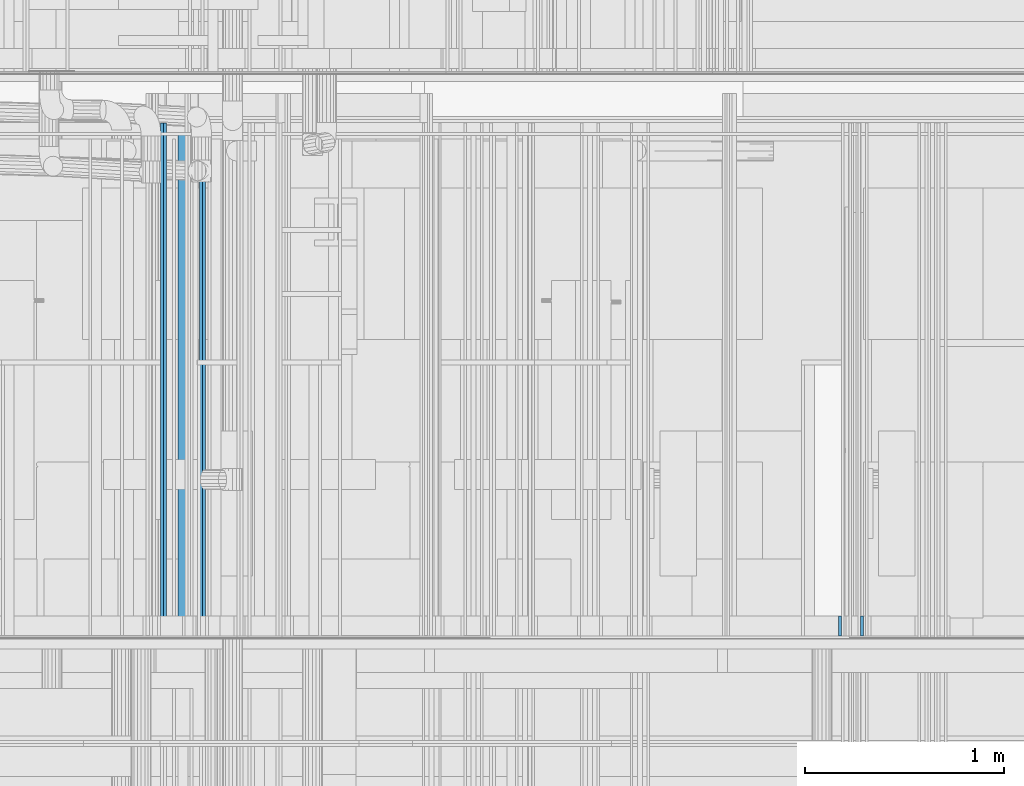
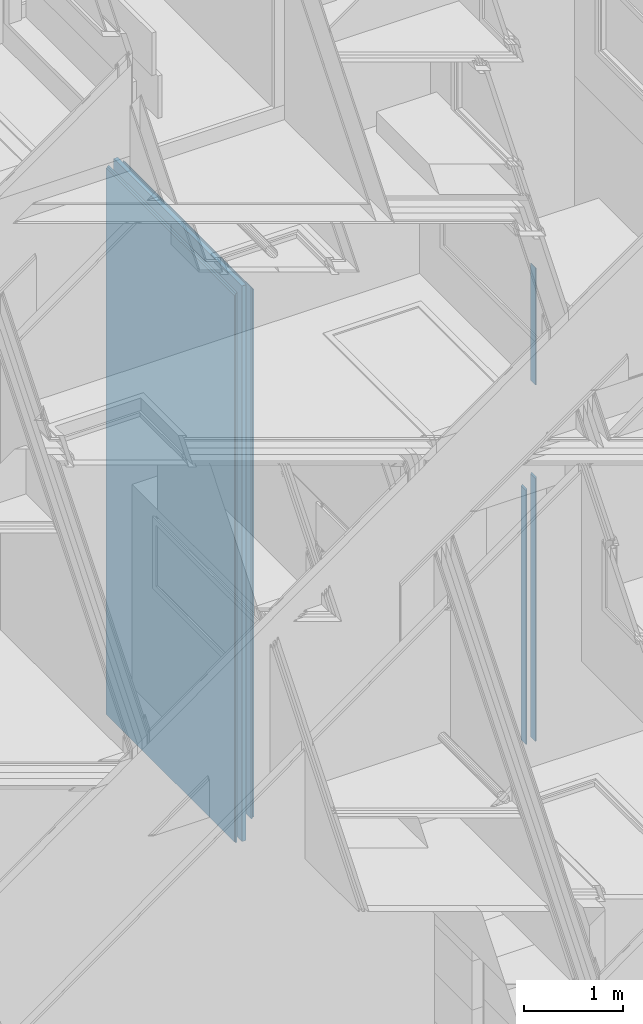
# One storey, part 118 of 583: 8 building element parts, 3 elements without a shape of their own.
"""IFC2X3 building model written with IfcOpenShell, lengths in metres."""

from ifc_helpers import new_model, entity, si_unit, converted_unit, derived_unit, money_unit, direction, frame, frame_2d, origin_with_axes, place, context, subcontext, project, spatial, polyline, rectangle, outline, extrude, material, type_object, element, aggregate, save


model = new_model("IFC2X3")

# Units and contexts
model_context = context("Model", 3, precision=1e-05, world=origin_with_axes(), true_north=direction((0.0, 1.0)))
body_context = subcontext(model_context, "Body", "Model", "MODEL_VIEW", scale=1.0)
ifc_project = project(units=[si_unit("LENGTHUNIT", "METRE"), si_unit("AREAUNIT", "SQUARE_METRE"), si_unit("VOLUMEUNIT", "CUBIC_METRE"), si_unit("ABSORBEDDOSEUNIT", "GRAY"), si_unit("AMOUNTOFSUBSTANCEUNIT", "MOLE"), si_unit("DOSEEQUIVALENTUNIT", "SIEVERT"), si_unit("ELECTRICCAPACITANCEUNIT", "FARAD"), si_unit("ELECTRICCHARGEUNIT", "COULOMB"), si_unit("ELECTRICCONDUCTANCEUNIT", "SIEMENS"), si_unit("ELECTRICCURRENTUNIT", "AMPERE"), si_unit("ELECTRICRESISTANCEUNIT", "OHM"), si_unit("ELECTRICVOLTAGEUNIT", "VOLT"), si_unit("ENERGYUNIT", "JOULE"), si_unit("FORCEUNIT", "NEWTON"), si_unit("FREQUENCYUNIT", "HERTZ"), si_unit("ILLUMINANCEUNIT", "LUX"), si_unit("INDUCTANCEUNIT", "HENRY"), si_unit("LUMINOUSFLUXUNIT", "LUMEN"), si_unit("LUMINOUSINTENSITYUNIT", "CANDELA"), si_unit("MAGNETICFLUXDENSITYUNIT", "TESLA"), si_unit("MAGNETICFLUXUNIT", "WEBER"), si_unit("MASSUNIT", "GRAM"), converted_unit("PLANEANGLEUNIT", "degree", entity("IfcReal", 0.0174532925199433), si_unit("PLANEANGLEUNIT", "RADIAN"), dimensions=[0, 0, 0, 0, 0, 0, 0]), si_unit("POWERUNIT", "WATT"), si_unit("PRESSUREUNIT", "PASCAL"), si_unit("RADIOACTIVITYUNIT", "BECQUEREL"), si_unit("SOLIDANGLEUNIT", "STERADIAN"), si_unit("THERMODYNAMICTEMPERATUREUNIT", "KELVIN"), si_unit("TIMEUNIT", "SECOND"), derived_unit("ACCELERATIONUNIT", [(si_unit("LENGTHUNIT", "METRE"), 1), (si_unit("TIMEUNIT", "SECOND"), -2)]), derived_unit("ANGULARVELOCITYUNIT", [(converted_unit("PLANEANGLEUNIT", "degree", entity("IfcReal", 0.0174532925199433), si_unit("PLANEANGLEUNIT", "RADIAN"), dimensions=[0, 0, 0, 0, 0, 0, 0]), 1), (si_unit("TIMEUNIT", "SECOND"), -1)]), derived_unit("CURVATUREUNIT", [(converted_unit("PLANEANGLEUNIT", "degree", entity("IfcReal", 0.0174532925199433), si_unit("PLANEANGLEUNIT", "RADIAN"), dimensions=[0, 0, 0, 0, 0, 0, 0]), 1), (si_unit("LENGTHUNIT", "METRE"), -1)]), derived_unit("DYNAMICVISCOSITYUNIT", [(si_unit("PRESSUREUNIT", "PASCAL"), 1), (si_unit("TIMEUNIT", "SECOND"), 1)]), derived_unit("HEATFLUXDENSITYUNIT", [(si_unit("POWERUNIT", "WATT"), 1), (si_unit("LENGTHUNIT", "METRE"), -2)]), derived_unit("HEATINGVALUEUNIT", [(si_unit("ENERGYUNIT", "JOULE"), 1), (si_unit("MASSUNIT", "GRAM"), -1)]), derived_unit("INTEGERCOUNTRATEUNIT", [(si_unit("TIMEUNIT", "SECOND"), -1)]), derived_unit("IONCONCENTRATIONUNIT", [(si_unit("MASSUNIT", "GRAM"), 1), (si_unit("VOLUMEUNIT", "CUBIC_METRE"), -1)]), derived_unit("ISOTHERMALMOISTURECAPACITYUNIT", [(si_unit("VOLUMEUNIT", "CUBIC_METRE"), 1), (si_unit("MASSUNIT", "GRAM"), -1)]), derived_unit("KINEMATICVISCOSITYUNIT", [(si_unit("AREAUNIT", "SQUARE_METRE"), 1), (si_unit("TIMEUNIT", "SECOND"), -1)]), derived_unit("LINEARFORCEUNIT", [(si_unit("FORCEUNIT", "NEWTON"), 1), (si_unit("LENGTHUNIT", "METRE"), -1)]), derived_unit("LINEARMOMENTUNIT", [(si_unit("FORCEUNIT", "NEWTON"), 1), (si_unit("LENGTHUNIT", "METRE"), -1)]), derived_unit("LINEARSTIFFNESSUNIT", [(si_unit("FORCEUNIT", "NEWTON"), 1), (si_unit("LENGTHUNIT", "METRE"), -1)]), derived_unit("LINEARVELOCITYUNIT", [(si_unit("LENGTHUNIT", "METRE"), 1), (si_unit("TIMEUNIT", "SECOND"), -1)]), derived_unit("LUMINOUSINTENSITYDISTRIBUTIONUNIT", [(si_unit("LUMINOUSINTENSITYUNIT", "CANDELA"), 1), (si_unit("LUMINOUSFLUXUNIT", "LUMEN"), -1)]), derived_unit("MASSDENSITYUNIT", [(si_unit("MASSUNIT", "GRAM"), 1), (si_unit("VOLUMEUNIT", "CUBIC_METRE"), -1)]), derived_unit("MASSFLOWRATEUNIT", [(si_unit("MASSUNIT", "GRAM"), 1), (si_unit("TIMEUNIT", "SECOND"), -1)]), derived_unit("MASSPERLENGTHUNIT", [(si_unit("MASSUNIT", "GRAM"), 1), (si_unit("LENGTHUNIT", "METRE"), -1)]), derived_unit("MODULUSOFELASTICITYUNIT", [(si_unit("FORCEUNIT", "NEWTON"), 1), (si_unit("AREAUNIT", "SQUARE_METRE"), -1)]), derived_unit("MODULUSOFLINEARSUBGRADEREACTIONUNIT", [(si_unit("FORCEUNIT", "NEWTON"), 1), (si_unit("LENGTHUNIT", "METRE"), -2)]), derived_unit("MODULUSOFROTATIONALSUBGRADEREACTIONUNIT", [(si_unit("FORCEUNIT", "NEWTON"), 1), (si_unit("LENGTHUNIT", "METRE"), 1)]), derived_unit("MODULUSOFSUBGRADEREACTIONUNIT", [(si_unit("FORCEUNIT", "NEWTON"), 1), (si_unit("VOLUMEUNIT", "CUBIC_METRE"), -1)]), derived_unit("MOISTUREDIFFUSIVITYUNIT", [(si_unit("VOLUMEUNIT", "CUBIC_METRE"), 1), (si_unit("TIMEUNIT", "SECOND"), -1)]), derived_unit("MOLECULARWEIGHTUNIT", [(si_unit("MASSUNIT", "GRAM"), 1), (si_unit("AMOUNTOFSUBSTANCEUNIT", "MOLE"), -1)]), derived_unit("PLANARFORCEUNIT", [(si_unit("FORCEUNIT", "NEWTON"), 1), (si_unit("LENGTHUNIT", "METRE"), -2)]), derived_unit("ROTATIONALFREQUENCYUNIT", [(si_unit("TIMEUNIT", "SECOND"), -1)]), derived_unit("ROTATIONALMASSUNIT", [(si_unit("MASSUNIT", "GRAM"), 1), (si_unit("LENGTHUNIT", "METRE"), 2)]), derived_unit("ROTATIONALSTIFFNESSUNIT", [(si_unit("FORCEUNIT", "NEWTON"), 1), (si_unit("LENGTHUNIT", "METRE"), 1), (converted_unit("PLANEANGLEUNIT", "degree", entity("IfcReal", 0.0174532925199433), si_unit("PLANEANGLEUNIT", "RADIAN"), dimensions=[0, 0, 0, 0, 0, 0, 0]), -1)]), derived_unit("SECTIONAREAINTEGRALUNIT", [(si_unit("LENGTHUNIT", "METRE"), 5)]), derived_unit("SECTIONMODULUSUNIT", [(si_unit("LENGTHUNIT", "METRE"), 3)]), derived_unit("SHEARMODULUSUNIT", [(si_unit("FORCEUNIT", "NEWTON"), 1), (si_unit("AREAUNIT", "SQUARE_METRE"), -1)]), derived_unit("SOUNDPOWERUNIT", [(si_unit("ENERGYUNIT", "JOULE"), 1), (si_unit("TIMEUNIT", "SECOND"), -1)]), derived_unit("SPECIFICHEATCAPACITYUNIT", [(si_unit("FORCEUNIT", "NEWTON"), 1), (si_unit("MASSUNIT", "GRAM"), -1), (si_unit("THERMODYNAMICTEMPERATUREUNIT", "KELVIN"), -1)]), derived_unit("TEMPERATUREGRADIENTUNIT", [(si_unit("THERMODYNAMICTEMPERATUREUNIT", "KELVIN"), 1), (si_unit("LENGTHUNIT", "METRE"), -1)]), derived_unit("THERMALADMITTANCEUNIT", [(si_unit("POWERUNIT", "WATT"), 1), (si_unit("AREAUNIT", "SQUARE_METRE"), -1), (si_unit("THERMODYNAMICTEMPERATUREUNIT", "KELVIN"), -1)]), derived_unit("THERMALCONDUCTANCEUNIT", [(si_unit("POWERUNIT", "WATT"), 1), (si_unit("LENGTHUNIT", "METRE"), -1), (si_unit("THERMODYNAMICTEMPERATUREUNIT", "KELVIN"), -1)]), derived_unit("THERMALEXPANSIONCOEFFICIENTUNIT", [(si_unit("THERMODYNAMICTEMPERATUREUNIT", "KELVIN"), -1)]), derived_unit("THERMALRESISTANCEUNIT", [(si_unit("AREAUNIT", "SQUARE_METRE"), 1), (si_unit("POWERUNIT", "WATT"), -1)]), derived_unit("THERMALTRANSMITTANCEUNIT", [(si_unit("POWERUNIT", "WATT"), 1), (si_unit("AREAUNIT", "SQUARE_METRE"), -1), (si_unit("THERMODYNAMICTEMPERATUREUNIT", "KELVIN"), -1)]), derived_unit("TORQUEUNIT", [(si_unit("FORCEUNIT", "NEWTON"), 1), (si_unit("LENGTHUNIT", "METRE"), 1)]), derived_unit("VAPORPERMEABILITYUNIT", [(si_unit("MASSUNIT", "GRAM"), 1), (si_unit("TIMEUNIT", "SECOND"), -1)]), derived_unit("VOLUMETRICFLOWRATEUNIT", [(si_unit("VOLUMEUNIT", "CUBIC_METRE"), 1), (si_unit("TIMEUNIT", "SECOND"), -1)]), derived_unit("WARPINGCONSTANTUNIT", [(si_unit("LENGTHUNIT", "METRE"), 6)]), derived_unit("WARPINGMOMENTUNIT", [(si_unit("FORCEUNIT", "NEWTON"), 1), (si_unit("LENGTHUNIT", "METRE"), 2)]), money_unit("GBP")], contexts=[model_context])

# Site, building, storey
site_placement = place(None, origin_with_axes())
site = spatial("IfcSite", under=ifc_project, at=site_placement, Name="Site", CompositionType="ELEMENT")
building_placement = place(site_placement, origin_with_axes())
building = spatial("IfcBuilding", under=site, at=building_placement, Name="Building01", CompositionType="ELEMENT")
storey_placement = place(building_placement, frame((0.0, 0.0, 20.78), z_axis=(0.0, 0.0, 1.0), x_axis=(1.0, 0.0, 0.0)))
storey = spatial("IfcBuildingStorey", under=building, at=storey_placement, Name="RL", CompositionType="ELEMENT", Elevation=20.78)

# Wall, building element parts
wall_type_1 = type_object("IfcWallType", Name="SHE_A-Walls_Type01c_Partywall_225mm_twin_tall", PredefinedType="NOTDEFINED")
wall_1_placement = place(storey_placement, frame((8.34767, 12.13, -13.628331), z_axis=(0.0, 1.0, 0.0), x_axis=(0.0, 0.0, -1.0)))
wall_1 = element("IfcWall", 1, at=wall_1_placement, inside=storey, type_object=wall_type_1, Name="1C", ObjectType="SHE_A-Walls_Type01c_Partywall_225mm_twin_tall")
ifc_material_1 = material(Name="A_BSUK_Insulation")
placement_1 = place(wall_1_placement, origin_with_axes())
building_element_part_1 = element("IfcBuildingElementPart", 2, at=placement_1, material=ifc_material_1, Name="1", context=body_context, shape_type="SweptSolid", body=[
    extrude(rectangle(XDim=6.845669, YDim=0.05, at=frame_2d((3.422834, 0.025), x_axis=(-1.0, 0.0))), origin_with_axes(), (0.0, 0.0, 1.0), 2.59),
])
ifc_material_2 = material(Name="A_BSUK_WallInternal_Finishes_Plasterboard")
building_element_part_2 = element("IfcBuildingElementPart", 3, at=placement_1, material=ifc_material_2, Name="3", context=body_context, shape_type="SweptSolid", body=[
    extrude(outline(polyline([(0.087, 0.137), (0.072, 0.122), (6.818669, 0.122), (6.818669, 0.137), (0.087, 0.137)])), origin_with_axes(), (0.0, 0.0, 1.0), 2.59),
])
building_element_part_3 = element("IfcBuildingElementPart", 4, at=placement_1, material=ifc_material_2, Name="4", context=body_context, shape_type="SweptSolid", body=[
    extrude(outline(polyline([(6.833669, 0.122), (0.072, 0.122), (0.057, 0.107), (6.833669, 0.107), (6.833669, 0.122)])), origin_with_axes(), (0.0, 0.0, 1.0), 2.59),
])
building_element_part_4 = element("IfcBuildingElementPart", 5, at=placement_1, material=ifc_material_2, Name="5", context=body_context, shape_type="SweptSolid", body=[
    extrude(outline(polyline([(6.603669, -0.058), (0.057, -0.058), (0.072, -0.073), (6.603669, -0.073), (6.603669, -0.058)])), origin_with_axes(), (0.0, 0.0, 1.0), 2.59),
])
building_element_part_5 = element("IfcBuildingElementPart", 6, at=placement_1, material=ifc_material_2, Name="6", context=body_context, shape_type="SweptSolid", body=[
    extrude(outline(polyline([(0.072, -0.073), (0.087, -0.088), (6.589491, -0.088), (6.589491, -0.073), (0.072, -0.073)])), origin_with_axes(), (0.0, 0.0, 1.0), 2.59),
])
aggregate(wall_1, [building_element_part_1, building_element_part_2, building_element_part_3, building_element_part_4, building_element_part_5])

wall_type_2 = type_object("IfcWallType", Name="SHE_A-Walls_Type05a_Partition_95mm_tall", PredefinedType="NOTDEFINED")
wall_2_placement = place(storey_placement, frame((11.69067, 12.13, -20.462), z_axis=(0.0, 1.0, 0.0), x_axis=(0.0, 0.0, 1.0)))
wall_2 = element("IfcWall", 7, at=wall_2_placement, inside=storey, type_object=wall_type_2, Name="5A", ObjectType="SHE_A-Walls_Type05a_Partition_95mm_tall")
ifc_material_3 = material(Name="A_BSUK_Walls_Timber")
placement_2 = place(wall_2_placement, origin_with_axes())
building_element_part_6 = element("IfcBuildingElementPart", 8, at=placement_2, material=ifc_material_3, Name="2", context=body_context, shape_type="SweptSolid", body=[
    extrude(outline(polyline([(3.156669, -0.06), (0.015, -0.06), (0.015, -0.075), (3.141669, -0.075), (3.156669, -0.06)])), frame((0.0, 0.0, 0.015), z_axis=(0.0, 0.0, 1.0), x_axis=(1.0, 0.0, 0.0)), (0.0, 0.0, 1.0), 0.1),
])
building_element_part_7 = element("IfcBuildingElementPart", 9, at=placement_2, material=ifc_material_3, Name="3", context=body_context, shape_type="SweptSolid", body=[
    extrude(outline(polyline([(3.266669, 0.05), (0.015, 0.05), (0.015, 0.035), (3.251669, 0.035), (3.266669, 0.05)])), frame((0.0, 0.0, 0.015), z_axis=(0.0, 0.0, 1.0), x_axis=(1.0, 0.0, 0.0)), (0.0, 0.0, 1.0), 0.1),
])
aggregate(wall_2, [building_element_part_6, building_element_part_7])

# Wall, building element part
wall_3_placement = place(storey_placement, frame((11.66567, 12.13, -16.110331), z_axis=(0.0, 1.0, 0.0), x_axis=(0.0, 0.0, 1.0)))
wall_3 = element("IfcWall", 10, at=wall_3_placement, inside=storey, type_object=wall_type_2, Name="5A", ObjectType="SHE_A-Walls_Type05a_Partition_95mm_tall")
building_element_part_8_placement = place(wall_3_placement, origin_with_axes())
building_element_part_8 = element("IfcBuildingElementPart", 11, at=building_element_part_8_placement, material=ifc_material_3, Name="2", context=body_context, shape_type="SweptSolid", body=[
    extrude(outline(polyline([(1.485, 0.075), (0.05, 0.075), (0.05, 0.06), (1.5, 0.06), (1.485, 0.075)])), frame((0.0, 0.0, 0.015), z_axis=(0.0, 0.0, 1.0), x_axis=(1.0, 0.0, 0.0)), (0.0, 0.0, 1.0), 0.1),
])
aggregate(wall_3, [building_element_part_8])

save(model, "model.ifc")
